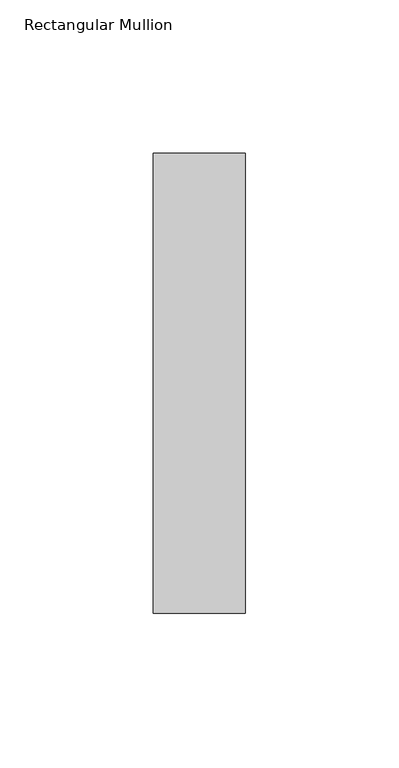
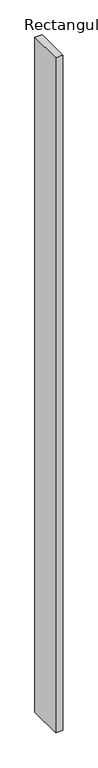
"""IFC4 building model written with IfcOpenShell, lengths in millimetres: member geometry, Rectangular Mullion : RSen_21_CWM_blade - cubic 150 - 0°_gen_duco projects."""

import ifcopenshell
import ifcopenshell.guid

model = None  # the IFC model being written
_history = None  # IfcOwnerHistory: only IFC2X3 demands one
_inside = {}  # id of a spatial element -> (the spatial element, [elements in it])
_under = {}  # id of a project, library or spatial element -> (it, [spatial elements below it])
_declared = {}  # id of a project -> (the project, [libraries it declares])
_typed = {}  # id of a type object -> (the type object, [elements of that type])
_made_of = {}  # id of a material, layer set ... -> (it, [elements and type objects made of it])


def new_model(schema):
    """Start an empty IFC model of exactly this schema.

    Asked for "IFC4X3", IfcOpenShell would pick the latest addendum, in which some entities
    have other attributes; the version numbers below select the first issue.
    IFC2X3 requires an IfcOwnerHistory on every rooted entity: one is made here for all.
    """
    global model, _history
    if schema == "IFC4X3":
        model = ifcopenshell.file(schema_version=(4, 3, 0, 0))
    else:
        model = ifcopenshell.file(schema=schema)
    _inside.clear()
    _under.clear()
    _declared.clear()
    _typed.clear()
    _made_of.clear()
    _history = None
    if model.schema == "IFC2X3":
        org = make("IfcOrganization", Name="unknown")
        user = make(
            "IfcPersonAndOrganization",
            ThePerson=make("IfcPerson", FamilyName="unknown"),
            TheOrganization=org,
        )
        app = make(
            "IfcApplication",
            ApplicationDeveloper=org,
            Version="unknown",
            ApplicationFullName="unknown",
            ApplicationIdentifier="unknown",
        )
        _history = make(
            "IfcOwnerHistory",
            OwningUser=user,
            OwningApplication=app,
            ChangeAction="ADDED",
            CreationDate=0,
        )
    return model


def make(cls, **values):
    """One entity of the class cls with the attributes given. An attribute that is None is left unset."""
    return model.create_entity(
        cls, **{name: value for name, value in values.items() if value is not None}
    )


def rooted(cls, **values):
    """An entity with a GlobalId (a new one), such as an element, a storey or a relation."""
    return make(cls, GlobalId=ifcopenshell.guid.new(), OwnerHistory=_history, **values)


def si_unit(unit_type, name, prefix=None):
    """IfcSIUnit, for example si_unit("LENGTHUNIT", "METRE", prefix="MILLI")."""
    return make("IfcSIUnit", UnitType=unit_type, Prefix=prefix, Name=name)


def assignment(units):
    """IfcUnitAssignment: the units of a project."""
    return None if units is None else make("IfcUnitAssignment", Units=units)


def point(xyz):
    """IfcCartesianPoint."""
    return None if xyz is None else make("IfcCartesianPoint", Coordinates=xyz)


def direction(xyz):
    """IfcDirection."""
    return None if xyz is None else make("IfcDirection", DirectionRatios=xyz)


def frame(location, z_axis=None, x_axis=None):
    """IfcAxis2Placement3D, a coordinate frame: its origin and axes. An axis left out is left unset."""
    return make(
        "IfcAxis2Placement3D",
        Location=point(location),
        Axis=direction(z_axis),
        RefDirection=direction(x_axis),
    )


def origin():
    """The frame at (0, 0, 0) with its axes left unset."""
    return frame((0.0, 0.0, 0.0))


def place(relative_to, where):
    """IfcLocalPlacement: puts the frame where relative to a parent placement (None: the world)."""
    return make(
        "IfcLocalPlacement", PlacementRelTo=relative_to, RelativePlacement=where
    )


def context(
    kind, dimensions, precision=None, world=None, true_north=None, identifier=None
):
    """IfcGeometricRepresentationContext, for example the 3D "Model" context."""
    return make(
        "IfcGeometricRepresentationContext",
        ContextIdentifier=identifier,
        ContextType=kind,
        CoordinateSpaceDimension=dimensions,
        Precision=precision,
        WorldCoordinateSystem=world,
        TrueNorth=true_north,
    )


def project(units=None, contexts=None):
    """IfcProject with its units and contexts."""
    return rooted(
        "IfcProject",
        Name="project",
        RepresentationContexts=contexts,
        UnitsInContext=assignment(units),
    )


def spatial(cls, under=None, at=None, **own):
    """A site, building, storey or space (cls), placed at a placement, below another one or the project."""
    s = rooted(cls, ObjectPlacement=at, **own)
    if under is not None:
        _under.setdefault(under.id(), (under, []))[1].append(s)
    return s


def polyline(points):
    """IfcPolyline through the points."""
    return make("IfcPolyline", Points=[point(p) for p in points])


def outline(outer, holes=None, kind="AREA"):
    """IfcArbitraryClosedProfileDef: a profile drawn as a closed curve; with holes, ...WithVoids."""
    if holes is None:
        return make("IfcArbitraryClosedProfileDef", ProfileType=kind, OuterCurve=outer)
    return make(
        "IfcArbitraryProfileDefWithVoids",
        ProfileType=kind,
        OuterCurve=outer,
        InnerCurves=holes,
    )


def extrude(swept, where, along, depth):
    """IfcExtrudedAreaSolid: the profile swept, set in the frame where, extruded along a direction by depth."""
    return make(
        "IfcExtrudedAreaSolid",
        SweptArea=swept,
        Position=where,
        ExtrudedDirection=direction(along),
        Depth=depth,
    )


def shape(context_of_items, identifier, shape_type, items):
    """IfcShapeRepresentation: the items that make up one representation, for example the "Body"."""
    return make(
        "IfcShapeRepresentation",
        ContextOfItems=context_of_items,
        RepresentationIdentifier=identifier,
        RepresentationType=shape_type,
        Items=items,
    )


def source(mapping_origin, context_of_items, identifier, shape_type, items):
    """IfcRepresentationMap: a shape defined once, which mapped items show again and again."""
    return make(
        "IfcRepresentationMap",
        MappingOrigin=mapping_origin,
        MappedRepresentation=shape(context_of_items, identifier, shape_type, items),
    )


def transform(
    local_origin,
    x_axis=None,
    y_axis=None,
    z_axis=None,
    scale=None,
    scale2=None,
    scale3=None,
    uniform=True,
):
    """IfcCartesianTransformationOperator3D, or its non-uniform kind. x_axis, y_axis, z_axis: its Axis1, 2, 3."""
    if uniform:
        return make(
            "IfcCartesianTransformationOperator3D",
            Axis1=direction(x_axis),
            Axis2=direction(y_axis),
            LocalOrigin=point(local_origin),
            Scale=scale,
            Axis3=direction(z_axis),
        )
    return make(
        "IfcCartesianTransformationOperator3DnonUniform",
        Axis1=direction(x_axis),
        Axis2=direction(y_axis),
        LocalOrigin=point(local_origin),
        Scale=scale,
        Axis3=direction(z_axis),
        Scale2=scale2,
        Scale3=scale3,
    )


def mapped(mapping_source, mapping_target):
    """IfcMappedItem: shows the shape of a source again, moved by a transform."""
    return make(
        "IfcMappedItem", MappingSource=mapping_source, MappingTarget=mapping_target
    )


def made_of(thing, what):
    """Note that an element or type object is made of a material, layer set ...; save() writes the relation."""
    if what is not None:
        _made_of.setdefault(what.id(), (what, []))[1].append(thing)
    return thing


def element(
    cls,
    number,
    at=None,
    inside=None,
    cuts=None,
    type_object=None,
    material=None,
    context=None,
    identifier="Body",
    shape_type=None,
    held_by="IfcProductDefinitionShape",
    body=None,
    shapes=None,
    **own,
):
    """One element of the class cls, such as IfcWall. Its Tag is "e" and its number.

    at: its placement. inside: the storey or other place that contains it. cuts: it is an
    opening in that element (IfcRelVoidsElement). A single representation is given by context,
    identifier, shape_type and body (its items); several are given by shapes. held_by: the class
    of the entity that holds the representations. save() writes the other relations.
    """
    e = rooted(cls, Tag="e%d" % number, ObjectPlacement=at, **own)
    if body is not None:
        shapes = [shape(context, identifier, shape_type, body)]
    if shapes is not None:
        e.Representation = make(held_by, Representations=shapes)
    if inside is not None:
        _inside.setdefault(inside.id(), (inside, []))[1].append(e)
    if cuts is not None:
        rooted(
            "IfcRelVoidsElement", RelatingBuildingElement=cuts, RelatedOpeningElement=e
        )
    if type_object is not None:
        _typed.setdefault(type_object.id(), (type_object, []))[1].append(e)
    return made_of(e, material)


def aggregate(whole, parts):
    """IfcRelAggregates: a whole, such as a stair, and the parts it consists of."""
    return rooted("IfcRelAggregates", RelatingObject=whole, RelatedObjects=parts)


def save(model, path):
    """Write the relations noted so far, then the file.

    IfcRelAggregates (storeys below a building ...), IfcRelContainedInSpatialStructure (elements
    in a storey), IfcRelDefinesByType, IfcRelAssociatesMaterial and IfcRelDeclares: one each for
    every whole, place, type object, material and project.
    """
    for whole, parts in _under.values():
        aggregate(whole, parts)
    for where, things in _inside.values():
        rooted(
            "IfcRelContainedInSpatialStructure",
            RelatedElements=things,
            RelatingStructure=where,
        )
    for kind, things in _typed.values():
        rooted("IfcRelDefinesByType", RelatedObjects=things, RelatingType=kind)
    for what, things in _made_of.values():
        rooted("IfcRelAssociatesMaterial", RelatedObjects=things, RelatingMaterial=what)
    for by, libraries in _declared.values():
        rooted("IfcRelDeclares", RelatingContext=by, RelatedDefinitions=libraries)
    model.write(path)


def rectangular_mullion_4e9be6f4(model_context):
    return source(origin(), model_context, "Body", "SweptSolid", [
        extrude(outline(polyline([(-15.0, 8.0), (-15.0, 158.0), (15.0, 158.0), (15.0, 8.0), (-15.0, 8.0)])), frame((0.0, 0.0, -3000.0), z_axis=(0.0, 0.0, 1.0), x_axis=(1.0, 0.0, 0.0)), (0.0, 0.0, 1.0), 3000.0),
    ])


if __name__ == "__main__":
    model = new_model("IFC4")
    model_context = context("Model", 3, world=origin())
    ifc_project = project(units=[si_unit("LENGTHUNIT", "METRE", prefix="MILLI")], contexts=[model_context])
    site = spatial("IfcSite", under=ifc_project)
    building = spatial("IfcBuilding", under=site)
    placement = place(None, origin())
    rectangular_mullion_shape = rectangular_mullion_4e9be6f4(model_context)
    element("IfcMember", 1, ObjectType="Rectangular Mullion : RSen_21_CWM_blade - cubic 150 - 0°_gen_duco projects", at=placement, inside=building, context=model_context, shape_type="MappedRepresentation", body=[
        mapped(rectangular_mullion_shape, transform((0.0, 0.0, 0.0), x_axis=(1.0, 0.0, 0.0), y_axis=(0.0, 1.0, 0.0), z_axis=(0.0, 0.0, 1.0))),
    ])
    save(model, "model.ifc")
